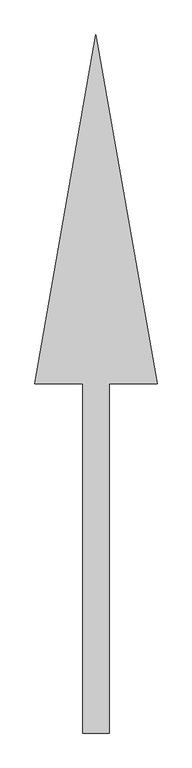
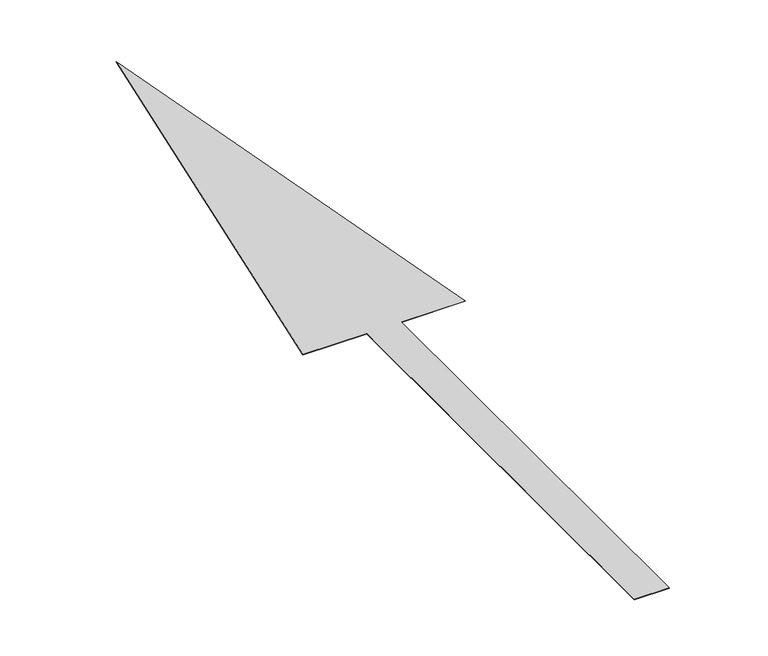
"""IFC4 building model written with IfcOpenShell, lengths in millimetres: geographic element geometry, Marquage routier - Flèche de continuité : Marquage routier - Flèche de continuité."""

import ifcopenshell
import ifcopenshell.guid

model = None  # the IFC model being written
_history = None  # IfcOwnerHistory: only IFC2X3 demands one
_inside = {}  # id of a spatial element -> (the spatial element, [elements in it])
_under = {}  # id of a project, library or spatial element -> (it, [spatial elements below it])
_declared = {}  # id of a project -> (the project, [libraries it declares])
_typed = {}  # id of a type object -> (the type object, [elements of that type])
_made_of = {}  # id of a material, layer set ... -> (it, [elements and type objects made of it])


def new_model(schema):
    """Start an empty IFC model of exactly this schema.

    Asked for "IFC4X3", IfcOpenShell would pick the latest addendum, in which some entities
    have other attributes; the version numbers below select the first issue.
    IFC2X3 requires an IfcOwnerHistory on every rooted entity: one is made here for all.
    """
    global model, _history
    if schema == "IFC4X3":
        model = ifcopenshell.file(schema_version=(4, 3, 0, 0))
    else:
        model = ifcopenshell.file(schema=schema)
    _inside.clear()
    _under.clear()
    _declared.clear()
    _typed.clear()
    _made_of.clear()
    _history = None
    if model.schema == "IFC2X3":
        org = make("IfcOrganization", Name="unknown")
        user = make(
            "IfcPersonAndOrganization",
            ThePerson=make("IfcPerson", FamilyName="unknown"),
            TheOrganization=org,
        )
        app = make(
            "IfcApplication",
            ApplicationDeveloper=org,
            Version="unknown",
            ApplicationFullName="unknown",
            ApplicationIdentifier="unknown",
        )
        _history = make(
            "IfcOwnerHistory",
            OwningUser=user,
            OwningApplication=app,
            ChangeAction="ADDED",
            CreationDate=0,
        )
    return model


def make(cls, **values):
    """One entity of the class cls with the attributes given. An attribute that is None is left unset."""
    return model.create_entity(
        cls, **{name: value for name, value in values.items() if value is not None}
    )


def rooted(cls, **values):
    """An entity with a GlobalId (a new one), such as an element, a storey or a relation."""
    return make(cls, GlobalId=ifcopenshell.guid.new(), OwnerHistory=_history, **values)


def si_unit(unit_type, name, prefix=None):
    """IfcSIUnit, for example si_unit("LENGTHUNIT", "METRE", prefix="MILLI")."""
    return make("IfcSIUnit", UnitType=unit_type, Prefix=prefix, Name=name)


def assignment(units):
    """IfcUnitAssignment: the units of a project."""
    return None if units is None else make("IfcUnitAssignment", Units=units)


def point(xyz):
    """IfcCartesianPoint."""
    return None if xyz is None else make("IfcCartesianPoint", Coordinates=xyz)


def direction(xyz):
    """IfcDirection."""
    return None if xyz is None else make("IfcDirection", DirectionRatios=xyz)


def frame(location, z_axis=None, x_axis=None):
    """IfcAxis2Placement3D, a coordinate frame: its origin and axes. An axis left out is left unset."""
    return make(
        "IfcAxis2Placement3D",
        Location=point(location),
        Axis=direction(z_axis),
        RefDirection=direction(x_axis),
    )


def origin():
    """The frame at (0, 0, 0) with its axes left unset."""
    return frame((0.0, 0.0, 0.0))


def place(relative_to, where):
    """IfcLocalPlacement: puts the frame where relative to a parent placement (None: the world)."""
    return make(
        "IfcLocalPlacement", PlacementRelTo=relative_to, RelativePlacement=where
    )


def context(
    kind, dimensions, precision=None, world=None, true_north=None, identifier=None
):
    """IfcGeometricRepresentationContext, for example the 3D "Model" context."""
    return make(
        "IfcGeometricRepresentationContext",
        ContextIdentifier=identifier,
        ContextType=kind,
        CoordinateSpaceDimension=dimensions,
        Precision=precision,
        WorldCoordinateSystem=world,
        TrueNorth=true_north,
    )


def project(units=None, contexts=None):
    """IfcProject with its units and contexts."""
    return rooted(
        "IfcProject",
        Name="project",
        RepresentationContexts=contexts,
        UnitsInContext=assignment(units),
    )


def spatial(cls, under=None, at=None, **own):
    """A site, building, storey or space (cls), placed at a placement, below another one or the project."""
    s = rooted(cls, ObjectPlacement=at, **own)
    if under is not None:
        _under.setdefault(under.id(), (under, []))[1].append(s)
    return s


def polyline(points):
    """IfcPolyline through the points."""
    return make("IfcPolyline", Points=[point(p) for p in points])


def outline(outer, holes=None, kind="AREA"):
    """IfcArbitraryClosedProfileDef: a profile drawn as a closed curve; with holes, ...WithVoids."""
    if holes is None:
        return make("IfcArbitraryClosedProfileDef", ProfileType=kind, OuterCurve=outer)
    return make(
        "IfcArbitraryProfileDefWithVoids",
        ProfileType=kind,
        OuterCurve=outer,
        InnerCurves=holes,
    )


def extrude(swept, where, along, depth):
    """IfcExtrudedAreaSolid: the profile swept, set in the frame where, extruded along a direction by depth."""
    return make(
        "IfcExtrudedAreaSolid",
        SweptArea=swept,
        Position=where,
        ExtrudedDirection=direction(along),
        Depth=depth,
    )


def shape(context_of_items, identifier, shape_type, items):
    """IfcShapeRepresentation: the items that make up one representation, for example the "Body"."""
    return make(
        "IfcShapeRepresentation",
        ContextOfItems=context_of_items,
        RepresentationIdentifier=identifier,
        RepresentationType=shape_type,
        Items=items,
    )


def source(mapping_origin, context_of_items, identifier, shape_type, items):
    """IfcRepresentationMap: a shape defined once, which mapped items show again and again."""
    return make(
        "IfcRepresentationMap",
        MappingOrigin=mapping_origin,
        MappedRepresentation=shape(context_of_items, identifier, shape_type, items),
    )


def transform(
    local_origin,
    x_axis=None,
    y_axis=None,
    z_axis=None,
    scale=None,
    scale2=None,
    scale3=None,
    uniform=True,
):
    """IfcCartesianTransformationOperator3D, or its non-uniform kind. x_axis, y_axis, z_axis: its Axis1, 2, 3."""
    if uniform:
        return make(
            "IfcCartesianTransformationOperator3D",
            Axis1=direction(x_axis),
            Axis2=direction(y_axis),
            LocalOrigin=point(local_origin),
            Scale=scale,
            Axis3=direction(z_axis),
        )
    return make(
        "IfcCartesianTransformationOperator3DnonUniform",
        Axis1=direction(x_axis),
        Axis2=direction(y_axis),
        LocalOrigin=point(local_origin),
        Scale=scale,
        Axis3=direction(z_axis),
        Scale2=scale2,
        Scale3=scale3,
    )


def mapped(mapping_source, mapping_target):
    """IfcMappedItem: shows the shape of a source again, moved by a transform."""
    return make(
        "IfcMappedItem", MappingSource=mapping_source, MappingTarget=mapping_target
    )


def made_of(thing, what):
    """Note that an element or type object is made of a material, layer set ...; save() writes the relation."""
    if what is not None:
        _made_of.setdefault(what.id(), (what, []))[1].append(thing)
    return thing


def element(
    cls,
    number,
    at=None,
    inside=None,
    cuts=None,
    type_object=None,
    material=None,
    context=None,
    identifier="Body",
    shape_type=None,
    held_by="IfcProductDefinitionShape",
    body=None,
    shapes=None,
    **own,
):
    """One element of the class cls, such as IfcWall. Its Tag is "e" and its number.

    at: its placement. inside: the storey or other place that contains it. cuts: it is an
    opening in that element (IfcRelVoidsElement). A single representation is given by context,
    identifier, shape_type and body (its items); several are given by shapes. held_by: the class
    of the entity that holds the representations. save() writes the other relations.
    """
    e = rooted(cls, Tag="e%d" % number, ObjectPlacement=at, **own)
    if body is not None:
        shapes = [shape(context, identifier, shape_type, body)]
    if shapes is not None:
        e.Representation = make(held_by, Representations=shapes)
    if inside is not None:
        _inside.setdefault(inside.id(), (inside, []))[1].append(e)
    if cuts is not None:
        rooted(
            "IfcRelVoidsElement", RelatingBuildingElement=cuts, RelatedOpeningElement=e
        )
    if type_object is not None:
        _typed.setdefault(type_object.id(), (type_object, []))[1].append(e)
    return made_of(e, material)


def aggregate(whole, parts):
    """IfcRelAggregates: a whole, such as a stair, and the parts it consists of."""
    return rooted("IfcRelAggregates", RelatingObject=whole, RelatedObjects=parts)


def save(model, path):
    """Write the relations noted so far, then the file.

    IfcRelAggregates (storeys below a building ...), IfcRelContainedInSpatialStructure (elements
    in a storey), IfcRelDefinesByType, IfcRelAssociatesMaterial and IfcRelDeclares: one each for
    every whole, place, type object, material and project.
    """
    for whole, parts in _under.values():
        aggregate(whole, parts)
    for where, things in _inside.values():
        rooted(
            "IfcRelContainedInSpatialStructure",
            RelatedElements=things,
            RelatingStructure=where,
        )
    for kind, things in _typed.values():
        rooted("IfcRelDefinesByType", RelatedObjects=things, RelatingType=kind)
    for what, things in _made_of.values():
        rooted("IfcRelAssociatesMaterial", RelatedObjects=things, RelatingMaterial=what)
    for by, libraries in _declared.values():
        rooted("IfcRelDeclares", RelatingContext=by, RelatedDefinitions=libraries)
    model.write(path)


def geographic_element_11632a1a(model_context):
    return source(origin(), model_context, "Body", "SweptSolid", [
        extrude(outline(polyline([(-350.0, 2000.0), (0.0, 4000.0), (350.0, 2000.0), (75.0, 2000.0), (75.0, 0.0), (-75.0, 0.0), (-75.0, 2000.0), (-350.0, 2000.0)])), frame((0.0, 0.0, -2.0), z_axis=(0.0, 0.0, 1.0), x_axis=(1.0, 0.0, 0.0)), (0.0, 0.0, 1.0), 2.0),
    ])


if __name__ == "__main__":
    model = new_model("IFC4")
    model_context = context("Model", 3, world=origin())
    ifc_project = project(units=[si_unit("LENGTHUNIT", "METRE", prefix="MILLI")], contexts=[model_context])
    site = spatial("IfcSite", under=ifc_project)
    building = spatial("IfcBuilding", under=site)
    placement = place(None, origin())
    geographic_element_shape = geographic_element_11632a1a(model_context)
    element("IfcGeographicElement", 1, ObjectType="Marquage routier - Flèche de continuité : Marquage routier - Flèche de continuité", at=placement, inside=building, context=model_context, shape_type="MappedRepresentation", body=[
        mapped(geographic_element_shape, transform((0.0, 0.0, 0.0), x_axis=(1.0, 0.0, 0.0), y_axis=(0.0, 1.0, 0.0), z_axis=(0.0, 0.0, 1.0))),
    ])
    save(model, "model.ifc")
